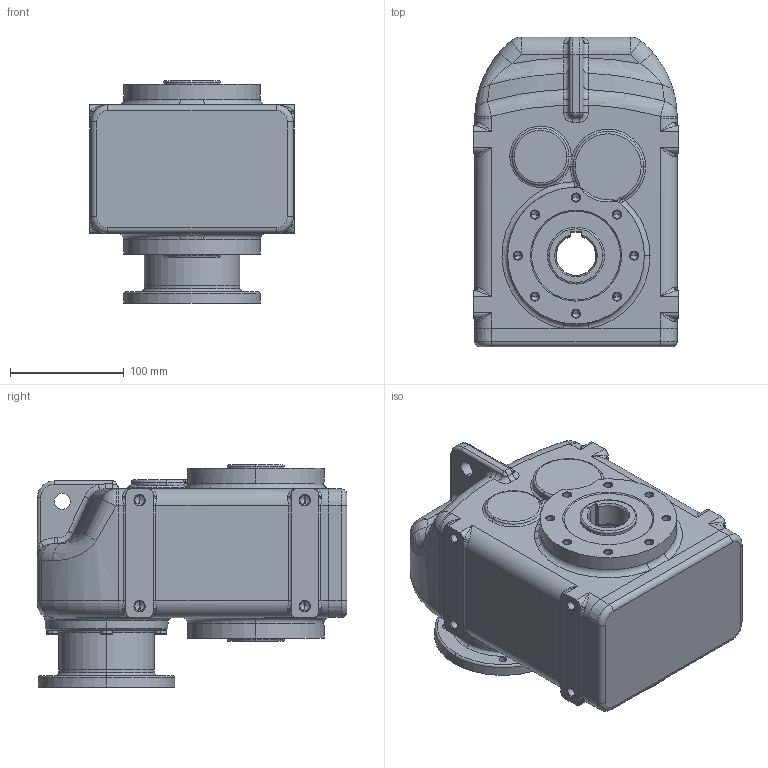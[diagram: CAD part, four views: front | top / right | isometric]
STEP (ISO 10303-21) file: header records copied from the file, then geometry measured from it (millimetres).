
FILE_DESCRIPTION (( 'STEP AP214' ), '1' );
FILE_NAME ('tnc23-f100-ap63.STEP', '2009-09-24T06:57:01', ( '' ), ( '' ), 'SwSTEP 2.0', 'SolidWorks 2003240', '' );
FILE_SCHEMA (( 'AUTOMOTIVE_DESIGN' ));
Length unit declared in the file: millimetre
Products named in the file (4): Skøíò TNC2_Skøíò TNC23 AP63; D6912_Šroub DIN 6912 - M6x20; Pøíruba MRT80 kulatá _80-100-120; tnc23-f100-ap63
Assembly tree (8 placements, depth 2):
  tnc23-f100-ap63
    D6912_Šroub DIN 6912 - M6x20  x6
    Skøíò TNC2_Skøíò TNC23 AP63
    Pøíruba MRT80 kulatá _80-100-120
Bounding box: 180 x 272 x 195 mm (x, y, z)
Volume: 5650405.6 mm3; surface area: 276682.1 mm2
Topology: 8 solids, 8 shells, 868 faces, 1957 edges, 1070 vertices
Faces by surface type: cylinder 251, cone 241, plane 175, torus 133, bspline 62, sphere 6
Entity records: 83067 total; most frequent: CARTESIAN_POINT 66733, DIRECTION 3552, ORIENTED_EDGE 3086, EDGE_CURVE 1543, AXIS2_PLACEMENT_3D 1497, VERTEX_POINT 915, CIRCLE 865, EDGE_LOOP 758
